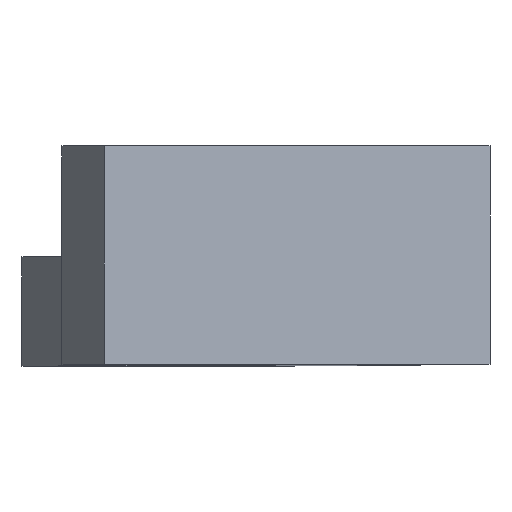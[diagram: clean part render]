
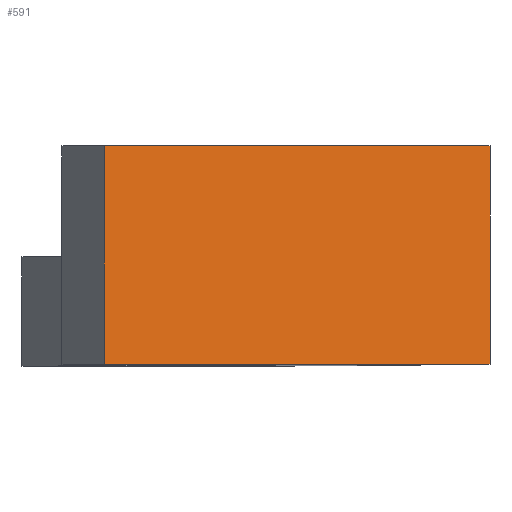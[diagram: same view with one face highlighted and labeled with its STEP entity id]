
A CAD part, top view. The second image highlights one B-rep face of the part: STEP entity #591.
In plain terms, the highlighted planar face has unit normal (0.216, 0, 0.976).
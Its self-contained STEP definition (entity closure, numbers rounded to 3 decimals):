
#24 = VERTEX_POINT('',#25);
#25 = CARTESIAN_POINT('',(34.314,-17.,208.004));
#32 = PLANE('',#33);
#33 = AXIS2_PLACEMENT_3D('',#34,#35,#36);
#34 = CARTESIAN_POINT('',(-17.099,-17.,77.744));
#35 = DIRECTION('',(0.,1.,0.));
#36 = DIRECTION('',(0.216,0.,0.976));
#44 = PLANE('',#45);
#45 = AXIS2_PLACEMENT_3D('',#46,#47,#48);
#46 = CARTESIAN_POINT('',(4.38,-17.,72.982));
#47 = DIRECTION('',(0.976,0.,-0.216));
#48 = DIRECTION('',(0.216,0.,0.976));
#253 = VERTEX_POINT('',#254);
#254 = CARTESIAN_POINT('',(-25.631,-17.,221.293));
#268 = PLANE('',#269);
#269 = AXIS2_PLACEMENT_3D('',#270,#271,#272);
#270 = CARTESIAN_POINT('',(-27.579,-17.,212.506));
#271 = DIRECTION('',(0.976,0.,-0.216));
#272 = DIRECTION('',(0.216,0.,0.976));
#280 = EDGE_CURVE('',#24,#253,#281,.T.);
#281 = SURFACE_CURVE('',#282,(#286,#293),.PCURVE_S1.);
#282 = LINE('',#283,#284);
#283 = CARTESIAN_POINT('',(34.314,-17.,208.004));
#284 = VECTOR('',#285,1.);
#285 = DIRECTION('',(-0.976,0.,0.216));
#286 = PCURVE('',#32,#287);
#287 = DEFINITIONAL_REPRESENTATION('',(#288),#292);
#288 = LINE('',#289,#290);
#289 = CARTESIAN_POINT('',(138.3,22.));
#290 = VECTOR('',#291,1.);
#291 = DIRECTION('',(0.,-1.));
#292 = ( GEOMETRIC_REPRESENTATION_CONTEXT(2) 
PARAMETRIC_REPRESENTATION_CONTEXT() REPRESENTATION_CONTEXT('2D SPACE',''
  ) );
#293 = PCURVE('',#294,#299);
#294 = PLANE('',#295);
#295 = AXIS2_PLACEMENT_3D('',#296,#297,#298);
#296 = CARTESIAN_POINT('',(12.835,-17.,212.765));
#297 = DIRECTION('',(0.216,0.,0.976));
#298 = DIRECTION('',(0.976,0.,-0.216));
#299 = DEFINITIONAL_REPRESENTATION('',(#300),#304);
#300 = LINE('',#301,#302);
#301 = CARTESIAN_POINT('',(22.,0.));
#302 = VECTOR('',#303,1.);
#303 = DIRECTION('',(-1.,0.));
#304 = ( GEOMETRIC_REPRESENTATION_CONTEXT(2) 
PARAMETRIC_REPRESENTATION_CONTEXT() REPRESENTATION_CONTEXT('2D SPACE',''
  ) );
#495 = VERTEX_POINT('',#496);
#496 = CARTESIAN_POINT('',(34.314,17.,208.004));
#510 = PLANE('',#511);
#511 = AXIS2_PLACEMENT_3D('',#512,#513,#514);
#512 = CARTESIAN_POINT('',(-17.099,17.,77.744));
#513 = DIRECTION('',(0.,1.,0.));
#514 = DIRECTION('',(0.216,0.,0.976));
#522 = EDGE_CURVE('',#24,#495,#523,.T.);
#523 = SURFACE_CURVE('',#524,(#528,#535),.PCURVE_S1.);
#524 = LINE('',#525,#526);
#525 = CARTESIAN_POINT('',(34.314,-17.,208.004));
#526 = VECTOR('',#527,1.);
#527 = DIRECTION('',(0.,1.,0.));
#528 = PCURVE('',#44,#529);
#529 = DEFINITIONAL_REPRESENTATION('',(#530),#534);
#530 = LINE('',#531,#532);
#531 = CARTESIAN_POINT('',(138.3,0.));
#532 = VECTOR('',#533,1.);
#533 = DIRECTION('',(0.,-1.));
#534 = ( GEOMETRIC_REPRESENTATION_CONTEXT(2) 
PARAMETRIC_REPRESENTATION_CONTEXT() REPRESENTATION_CONTEXT('2D SPACE',''
  ) );
#535 = PCURVE('',#294,#536);
#536 = DEFINITIONAL_REPRESENTATION('',(#537),#541);
#537 = LINE('',#538,#539);
#538 = CARTESIAN_POINT('',(22.,0.));
#539 = VECTOR('',#540,1.);
#540 = DIRECTION('',(0.,1.));
#541 = ( GEOMETRIC_REPRESENTATION_CONTEXT(2) 
PARAMETRIC_REPRESENTATION_CONTEXT() REPRESENTATION_CONTEXT('2D SPACE',''
  ) );
#591 = ADVANCED_FACE('',(#592),#294,.T.);
#592 = FACE_BOUND('',#593,.T.);
#593 = EDGE_LOOP('',(#594,#617,#638,#639));
#594 = ORIENTED_EDGE('',*,*,#595,.F.);
#595 = EDGE_CURVE('',#596,#495,#598,.T.);
#596 = VERTEX_POINT('',#597);
#597 = CARTESIAN_POINT('',(-25.631,17.,221.293));
#598 = SURFACE_CURVE('',#599,(#603,#610),.PCURVE_S1.);
#599 = LINE('',#600,#601);
#600 = CARTESIAN_POINT('',(-25.631,17.,221.293));
#601 = VECTOR('',#602,1.);
#602 = DIRECTION('',(0.976,0.,-0.216)
  );
#603 = PCURVE('',#294,#604);
#604 = DEFINITIONAL_REPRESENTATION('',(#605),#609);
#605 = LINE('',#606,#607);
#606 = CARTESIAN_POINT('',(-39.4,34.));
#607 = VECTOR('',#608,1.);
#608 = DIRECTION('',(1.,0.));
#609 = ( GEOMETRIC_REPRESENTATION_CONTEXT(2) 
PARAMETRIC_REPRESENTATION_CONTEXT() REPRESENTATION_CONTEXT('2D SPACE',''
  ) );
#610 = PCURVE('',#510,#611);
#611 = DEFINITIONAL_REPRESENTATION('',(#612),#616);
#612 = LINE('',#613,#614);
#613 = CARTESIAN_POINT('',(138.3,-39.4));
#614 = VECTOR('',#615,1.);
#615 = DIRECTION('',(0.,1.));
#616 = ( GEOMETRIC_REPRESENTATION_CONTEXT(2) 
PARAMETRIC_REPRESENTATION_CONTEXT() REPRESENTATION_CONTEXT('2D SPACE',''
  ) );
#617 = ORIENTED_EDGE('',*,*,#618,.F.);
#618 = EDGE_CURVE('',#253,#596,#619,.T.);
#619 = SURFACE_CURVE('',#620,(#624,#631),.PCURVE_S1.);
#620 = LINE('',#621,#622);
#621 = CARTESIAN_POINT('',(-25.631,-17.,221.293));
#622 = VECTOR('',#623,1.);
#623 = DIRECTION('',(0.,1.,0.));
#624 = PCURVE('',#294,#625);
#625 = DEFINITIONAL_REPRESENTATION('',(#626),#630);
#626 = LINE('',#627,#628);
#627 = CARTESIAN_POINT('',(-39.4,0.));
#628 = VECTOR('',#629,1.);
#629 = DIRECTION('',(0.,1.));
#630 = ( GEOMETRIC_REPRESENTATION_CONTEXT(2) 
PARAMETRIC_REPRESENTATION_CONTEXT() REPRESENTATION_CONTEXT('2D SPACE',''
  ) );
#631 = PCURVE('',#268,#632);
#632 = DEFINITIONAL_REPRESENTATION('',(#633),#637);
#633 = LINE('',#634,#635);
#634 = CARTESIAN_POINT('',(9.,0.));
#635 = VECTOR('',#636,1.);
#636 = DIRECTION('',(0.,-1.));
#637 = ( GEOMETRIC_REPRESENTATION_CONTEXT(2) 
PARAMETRIC_REPRESENTATION_CONTEXT() REPRESENTATION_CONTEXT('2D SPACE',''
  ) );
#638 = ORIENTED_EDGE('',*,*,#280,.F.);
#639 = ORIENTED_EDGE('',*,*,#522,.T.);
